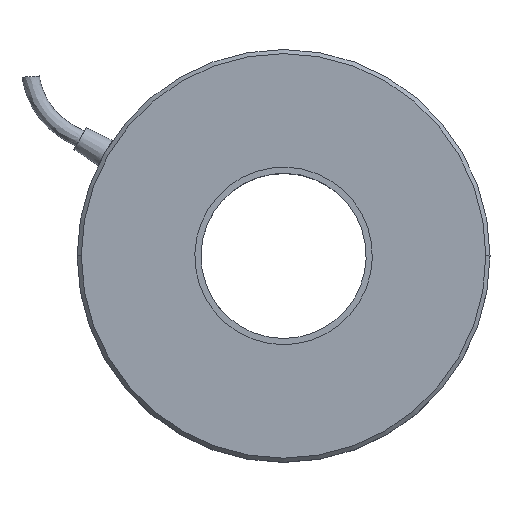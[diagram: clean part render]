
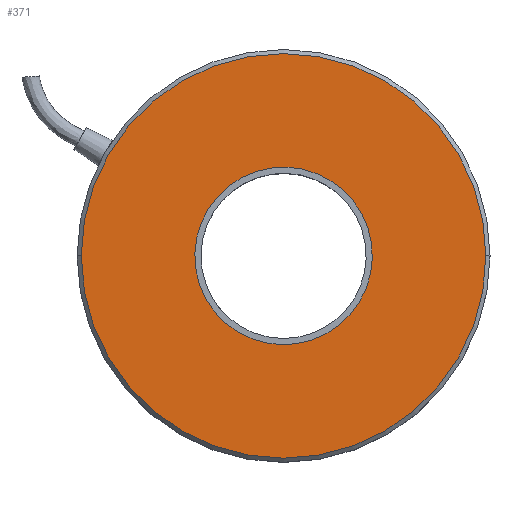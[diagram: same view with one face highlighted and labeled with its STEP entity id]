
A CAD part, top view. The second image highlights one B-rep face of the part: STEP entity #371.
In plain terms, the highlighted planar face has unit normal (0, 0, 1).
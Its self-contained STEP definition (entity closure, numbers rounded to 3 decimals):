
#11 = DIRECTION ( 'NONE',  ( 1., 0., 0. ) ) ;
#140 = CARTESIAN_POINT ( 'NONE',  ( 0., 0., 21. ) ) ;
#243 = CARTESIAN_POINT ( 'NONE',  ( -21., 0., 21. ) ) ;
#249 = EDGE_CURVE ( 'NONE', #462, #293, #1693, .T. ) ;
#251 = DIRECTION ( 'NONE',  ( 1., 0., 0. ) ) ;
#293 = VERTEX_POINT ( 'NONE', #1092 ) ;
#317 = AXIS2_PLACEMENT_3D ( 'NONE', #140, #1112, #1867 ) ;
#339 = PLANE ( 'NONE',  #1494 ) ;
#371 = ADVANCED_FACE ( 'NONE', ( #775, #643 ), #339, .T. ) ;
#386 = CARTESIAN_POINT ( 'NONE',  ( 49., 0., 21. ) ) ;
#414 = DIRECTION ( 'NONE',  ( 0., 0., 1. ) ) ;
#444 = ORIENTED_EDGE ( 'NONE', *, *, #249, .T. ) ;
#462 = VERTEX_POINT ( 'NONE', #386 ) ;
#473 = ORIENTED_EDGE ( 'NONE', *, *, #1225, .F. ) ;
#554 = CARTESIAN_POINT ( 'NONE',  ( 0., 0., 21. ) ) ;
#621 = AXIS2_PLACEMENT_3D ( 'NONE', #797, #955, #1879 ) ;
#638 = EDGE_CURVE ( 'NONE', #293, #462, #1051, .T. ) ;
#643 = FACE_OUTER_BOUND ( 'NONE', #1385, .T. ) ;
#659 = CIRCLE ( 'NONE', #1346, 21. ) ;
#775 = FACE_BOUND ( 'NONE', #1688, .T. ) ;
#797 = CARTESIAN_POINT ( 'NONE',  ( 0., 0., 21. ) ) ;
#955 = DIRECTION ( 'NONE',  ( 0., 0., 1. ) ) ;
#957 = DIRECTION ( 'NONE',  ( 0., 0., 1. ) ) ;
#979 = DIRECTION ( 'NONE',  ( 1., 0., 0. ) ) ;
#1004 = VERTEX_POINT ( 'NONE', #243 ) ;
#1051 = CIRCLE ( 'NONE', #317, 49. ) ;
#1068 = EDGE_CURVE ( 'NONE', #1004, #1567, #1498, .T. ) ;
#1092 = CARTESIAN_POINT ( 'NONE',  ( -49., 0., 21. ) ) ;
#1112 = DIRECTION ( 'NONE',  ( 0., 0., 1. ) ) ;
#1160 = ORIENTED_EDGE ( 'NONE', *, *, #638, .T. ) ;
#1225 = EDGE_CURVE ( 'NONE', #1567, #1004, #659, .T. ) ;
#1236 = DIRECTION ( 'NONE',  ( 0., 0., 1. ) ) ;
#1278 = CARTESIAN_POINT ( 'NONE',  ( 0., 0., 21. ) ) ;
#1294 = CARTESIAN_POINT ( 'NONE',  ( 21., 0., 21. ) ) ;
#1346 = AXIS2_PLACEMENT_3D ( 'NONE', #554, #414, #251 ) ;
#1385 = EDGE_LOOP ( 'NONE', ( #1160, #444 ) ) ;
#1494 = AXIS2_PLACEMENT_3D ( 'NONE', #1278, #957, #979 ) ;
#1498 = CIRCLE ( 'NONE', #621, 21. ) ;
#1555 = ORIENTED_EDGE ( 'NONE', *, *, #1068, .F. ) ;
#1567 = VERTEX_POINT ( 'NONE', #1294 ) ;
#1688 = EDGE_LOOP ( 'NONE', ( #473, #1555 ) ) ;
#1693 = CIRCLE ( 'NONE', #1824, 49. ) ;
#1824 = AXIS2_PLACEMENT_3D ( 'NONE', #2006, #1236, #11 ) ;
#1867 = DIRECTION ( 'NONE',  ( 1., 0., 0. ) ) ;
#1879 = DIRECTION ( 'NONE',  ( 1., 0., 0. ) ) ;
#2006 = CARTESIAN_POINT ( 'NONE',  ( 0., 0., 21. ) ) ;
